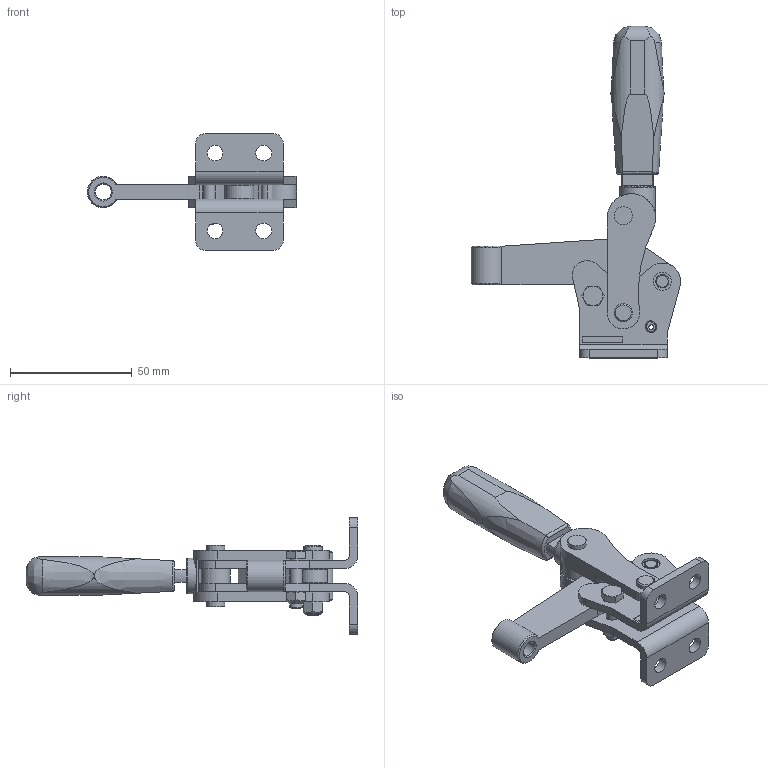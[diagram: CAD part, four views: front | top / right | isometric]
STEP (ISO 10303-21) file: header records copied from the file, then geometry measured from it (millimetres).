
FILE_DESCRIPTION( ( 'STEP AP203' ), '1' );
FILE_NAME( 'C:/Temp/Ganter_Step_05_03_2020/data/2_4/gn910/gn910_e/Toggle clamp GN 910-220-E (closed).stp', '2020-03-13T05:50:19', ( 'License CC BY-ND 4.0' ), ( 'CADENAS' ), ' ', 'PARTsolutions', ' ' );
FILE_SCHEMA( ( 'CONFIG_CONTROL_DESIGN' ) );
Length unit declared in the file: millimetre
Products named in the file (5): Toggle clamp GN 910-220-E (closed); _Toggle clamp GN 910-220-E-1; _Toggle clamp GN 910-220-E (0)-4; _Toggle clamp GN 910-220-E-2; _Toggle clamp GN 910-220-E (0)-3
Assembly tree (4 placements, depth 2):
  Toggle clamp GN 910-220-E (closed)
    _Toggle clamp GN 910-220-E-1
    _Toggle clamp GN 910-220-E (0)-4
    _Toggle clamp GN 910-220-E-2
    _Toggle clamp GN 910-220-E (0)-3
Bounding box: 85.97 x 136.5 x 48 mm (x, y, z)
Volume: 51678.1 mm3; surface area: 26652.5 mm2
Topology: 4 solids, 4 shells, 224 faces, 544 edges, 355 vertices
Faces by surface type: plane 103, cylinder 79, cone 37, torus 3, bspline 2
Full cylindrical faces by diameter (mm): 5 x3, 5.5 x4, 6 x1, 6.5 x5, 7.5 x14, 12 x2, 14.8 x1
Entity records: 7144 total; most frequent: CARTESIAN_POINT 1886, DIRECTION 1045, ORIENTED_EDGE 986, EDGE_CURVE 493, AXIS2_PLACEMENT_3D 412, VERTEX_POINT 346, EDGE_LOOP 325, FACE_OUTER_BOUND 255
